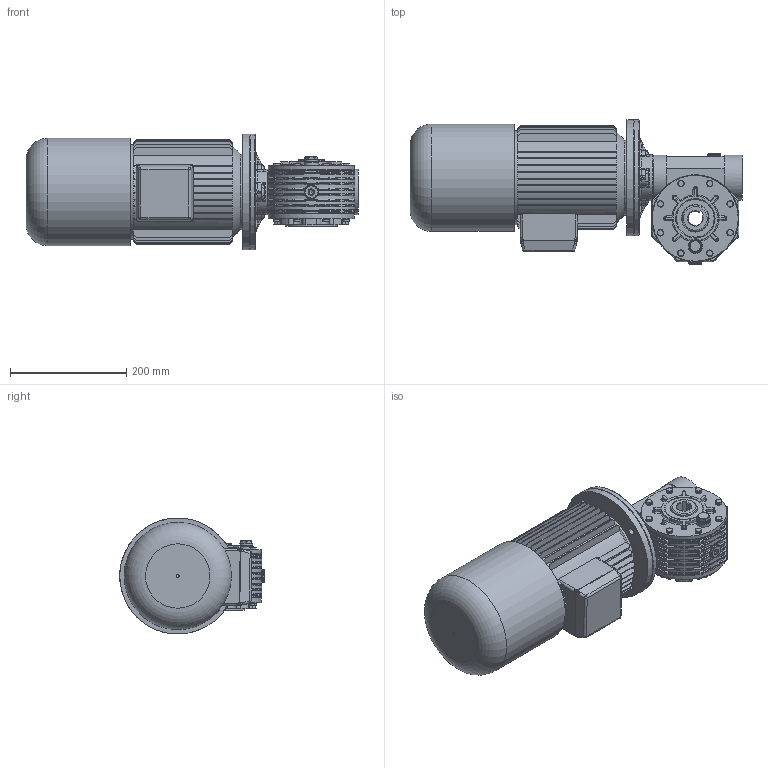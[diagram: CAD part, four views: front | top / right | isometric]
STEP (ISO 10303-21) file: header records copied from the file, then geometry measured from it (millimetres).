
FILE_DESCRIPTION((''),'2;1');
FILE_NAME('Y:\Archivi Inventor\Prog_01\GRAND_30\Figurini\MRV30 sito\90L autofrenante\MRV30_FP2_90L_B5.stp','2013-02-06T11:06:06',('tech3'),(''),'Autodesk Inventor 2013','Autodesk Inventor 2013','');
FILE_SCHEMA(('AUTOMOTIVE_DESIGN { 1 0 10303 214 1 1 1 1 }'));
Length unit declared in the file: millimetre
Products named in the file (18): MRV30_90s_90L; MRV30; 0103001-A2 fig; 0103008.A1 fig F=25; PARAOLIO 45x65x10; RCA_52x7; Guarnizione 3_8 GAS; Tappo 3_8 GAS_esagn_incsst; 0103029; DIN EN 24017 M6 x 20; 0103028; 0103002-A0 fig; DIN EN ISO 4762 M6 x 20; Tappo3_8 GAS; 0103004.A2 fig; UNI 5931 M 8 x  25; 0103006; motori B5 brake 90L
Assembly tree (39 placements, depth 3):
  MRV30_90s_90L
    MRV30
      0103001-A2 fig
      0103008.A1 fig F=25
      PARAOLIO 45x65x10  x2
      RCA_52x7
      Guarnizione 3_8 GAS  x3
      Tappo 3_8 GAS_esagn_incsst  x2
      0103029  x2
      DIN EN 24017 M6 x 20  x8
      0103028
      0103002-A0 fig
      DIN EN ISO 4762 M6 x 20  x8
      Tappo3_8 GAS
      0103004.A2 fig
      UNI 5931 M 8 x  25  x4
    0103006
    motori B5 brake 90L
Bounding box: 572.4 x 249.05 x 199.97 mm (x, y, z)
Volume: 7564966 mm3; surface area: 1017476.1 mm2
Topology: 39 solids, 42 shells, 2133 faces, 5162 edges, 3092 vertices
Faces by surface type: plane 921, cylinder 719, torus 185, bspline 166, cone 118, sphere 24
Full cylindrical faces by diameter (mm): 2 x2, 4.917 x16, 5 x1, 6 x16, 6.5 x32, 6.647 x8, 8 x6, 8.5 x8, 8.88 x8, 9.5 x8, 10 x8, 11 x8, 11.5 x4, 13 x4, 13.046 x1, 14.95 x3, 16.3 x3, 16.5 x2, 22 x6, 24 x1, 25 x1, 43 x1, 45 x6, 45.76 x1, 50.881 x2, 52 x6, 55 x1, 60.5 x2, 65 x4, 77 x1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
Entity records: 61487 total; most frequent: CARTESIAN_POINT 19674, DIRECTION 8823, ORIENTED_EDGE 8204, EDGE_CURVE 4102, AXIS2_PLACEMENT_3D 3497, VERTEX_POINT 2604, EDGE_LOOP 2167, VECTOR 1829
